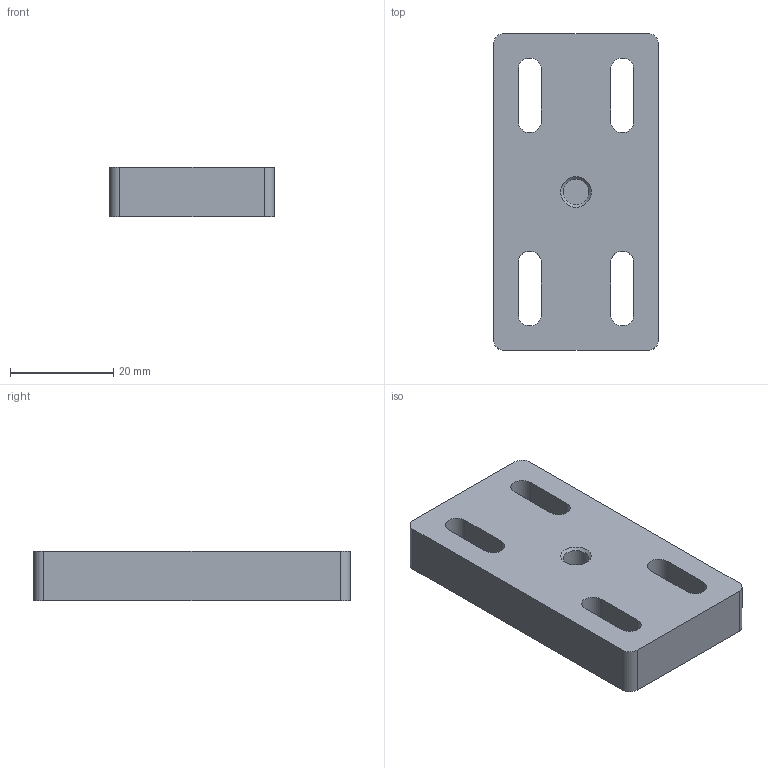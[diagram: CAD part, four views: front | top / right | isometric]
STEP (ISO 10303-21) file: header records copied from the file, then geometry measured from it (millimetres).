
FILE_DESCRIPTION(/* description */ ('1/4-20 Mounting Bracket'),/* implementation_level */ '2;1');
FILE_NAME(/* name */ 'C:\_01_DME_Vault\_01_DME_Vault_Projects\EUCLID\Brackets\EU-1-4-BRACKET.stp',/* time_stamp */ '2019-02-05T15:02:29-05:00',/* author */ ('echenard'),/* organization */ (''),/* preprocessor_version */ 'ST-DEVELOPER v17',/* originating_system */ 'Autodesk Inventor 2018',/* authorisation */ '');
FILE_SCHEMA (('CONFIG_CONTROL_DESIGN'));
Length unit declared in the file: millimetre
Products named in the file (1): 1-4x20 Bracket
Bounding box: 32 x 61.5 x 9.53 mm (x, y, z)
Volume: 16234.2 mm3; surface area: 6611.8 mm2
Topology: 1 solids, 1 shells, 29 faces, 80 edges, 54 vertices
Faces by surface type: plane 15, cylinder 13, cone 1
Full cylindrical faces by diameter (mm): 4.978 x1
Entity records: 995 total; most frequent: DIRECTION 170, CARTESIAN_POINT 164, ORIENTED_EDGE 160, EDGE_CURVE 80, AXIS2_PLACEMENT_3D 60, VERTEX_POINT 54, LINE 50, VECTOR 50
